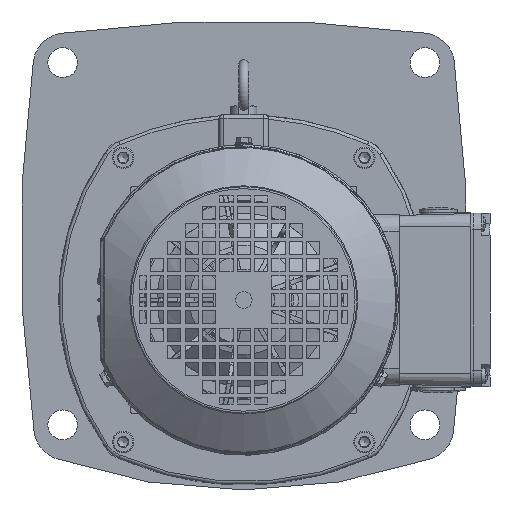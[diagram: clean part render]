
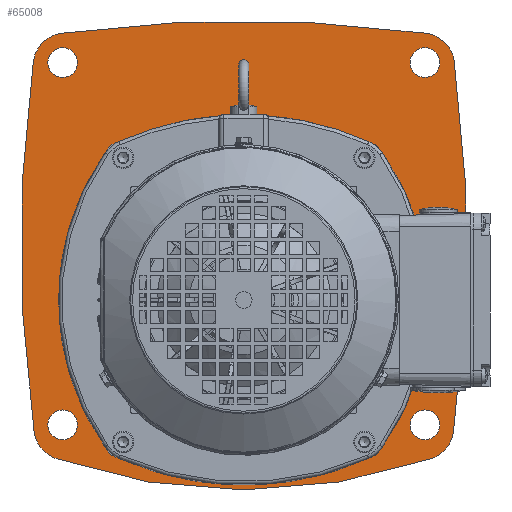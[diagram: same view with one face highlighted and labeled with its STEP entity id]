
A CAD part, left-side view. The second image highlights one B-rep face of the part: STEP entity #65008.
In plain terms, the highlighted planar face has unit normal (-1, 0, 0).
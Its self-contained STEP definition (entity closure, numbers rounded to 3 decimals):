
#2793=PLANE('',#69112);
#4265=FACE_BOUND('',#11706,.T.);
#4266=FACE_BOUND('',#11707,.T.);
#4267=FACE_BOUND('',#11708,.T.);
#4268=FACE_BOUND('',#11709,.T.);
#4269=FACE_BOUND('',#11710,.T.);
#4864=CIRCLE('',#69044,20.);
#4878=CIRCLE('',#69060,350.);
#4879=CIRCLE('',#69062,20.);
#4880=CIRCLE('',#69064,20.);
#4881=CIRCLE('',#69066,800.);
#4882=CIRCLE('',#69068,20.);
#4883=CIRCLE('',#69070,9.);
#4884=CIRCLE('',#69072,9.);
#4885=CIRCLE('',#69074,9.);
#4886=CIRCLE('',#69076,9.);
#4887=CIRCLE('',#69078,155.);
#4891=CIRCLE('',#69083,185.);
#4895=CIRCLE('',#69088,155.);
#4899=CIRCLE('',#69093,185.);
#4909=CIRCLE('',#69109,800.);
#4910=CIRCLE('',#69111,800.);
#7648=FACE_OUTER_BOUND('',#11705,.T.);
#11705=EDGE_LOOP('',(#46493,#46494,#46495,#46496,#46497,#46498,#46499,#46500));
#11706=EDGE_LOOP('',(#46501));
#11707=EDGE_LOOP('',(#46502));
#11708=EDGE_LOOP('',(#46503));
#11709=EDGE_LOOP('',(#46504));
#11710=EDGE_LOOP('',(#46505,#46506,#46507,#46508));
#27629=VERTEX_POINT('',#96990);
#27630=VERTEX_POINT('',#96991);
#27644=VERTEX_POINT('',#97023);
#27645=VERTEX_POINT('',#97027);
#27646=VERTEX_POINT('',#97031);
#27647=VERTEX_POINT('',#97032);
#27648=VERTEX_POINT('',#97037);
#27649=VERTEX_POINT('',#97041);
#27650=VERTEX_POINT('',#97045);
#27651=VERTEX_POINT('',#97049);
#27652=VERTEX_POINT('',#97053);
#27653=VERTEX_POINT('',#97057);
#27654=VERTEX_POINT('',#97061);
#27655=VERTEX_POINT('',#97062);
#27660=VERTEX_POINT('',#97074);
#27664=VERTEX_POINT('',#97084);
#34600=EDGE_CURVE('',#27629,#27630,#4864,.T.);
#34616=EDGE_CURVE('',#27644,#27630,#4878,.T.);
#34618=EDGE_CURVE('',#27644,#27645,#4879,.T.);
#34620=EDGE_CURVE('',#27646,#27647,#4880,.T.);
#34623=EDGE_CURVE('',#27648,#27647,#4881,.T.);
#34625=EDGE_CURVE('',#27648,#27649,#4882,.T.);
#34628=EDGE_CURVE('',#27650,#27650,#4883,.T.);
#34630=EDGE_CURVE('',#27651,#27651,#4884,.T.);
#34632=EDGE_CURVE('',#27652,#27652,#4885,.T.);
#34634=EDGE_CURVE('',#27653,#27653,#4886,.T.);
#34635=EDGE_CURVE('',#27654,#27655,#4887,.T.);
#34641=EDGE_CURVE('',#27655,#27660,#4891,.T.);
#34646=EDGE_CURVE('',#27660,#27664,#4895,.T.);
#34651=EDGE_CURVE('',#27664,#27654,#4899,.T.);
#34664=EDGE_CURVE('',#27629,#27649,#4909,.T.);
#34665=EDGE_CURVE('',#27646,#27645,#4910,.T.);
#46493=ORIENTED_EDGE('',*,*,#34600,.F.);
#46494=ORIENTED_EDGE('',*,*,#34664,.T.);
#46495=ORIENTED_EDGE('',*,*,#34625,.F.);
#46496=ORIENTED_EDGE('',*,*,#34623,.T.);
#46497=ORIENTED_EDGE('',*,*,#34620,.F.);
#46498=ORIENTED_EDGE('',*,*,#34665,.T.);
#46499=ORIENTED_EDGE('',*,*,#34618,.F.);
#46500=ORIENTED_EDGE('',*,*,#34616,.T.);
#46501=ORIENTED_EDGE('',*,*,#34628,.T.);
#46502=ORIENTED_EDGE('',*,*,#34630,.T.);
#46503=ORIENTED_EDGE('',*,*,#34632,.T.);
#46504=ORIENTED_EDGE('',*,*,#34634,.T.);
#46505=ORIENTED_EDGE('',*,*,#34635,.T.);
#46506=ORIENTED_EDGE('',*,*,#34641,.T.);
#46507=ORIENTED_EDGE('',*,*,#34646,.T.);
#46508=ORIENTED_EDGE('',*,*,#34651,.T.);
#65008=ADVANCED_FACE('',(#7648,#4265,#4266,#4267,#4268,#4269),#2793,.T.);
#69044=AXIS2_PLACEMENT_3D('',#96992,#77652,#77653);
#69060=AXIS2_PLACEMENT_3D('',#97024,#77686,#77687);
#69062=AXIS2_PLACEMENT_3D('',#97028,#77691,#77692);
#69064=AXIS2_PLACEMENT_3D('',#97033,#77696,#77697);
#69066=AXIS2_PLACEMENT_3D('',#97038,#77702,#77703);
#69068=AXIS2_PLACEMENT_3D('',#97042,#77707,#77708);
#69070=AXIS2_PLACEMENT_3D('',#97047,#77713,#77714);
#69072=AXIS2_PLACEMENT_3D('',#97051,#77718,#77719);
#69074=AXIS2_PLACEMENT_3D('',#97055,#77723,#77724);
#69076=AXIS2_PLACEMENT_3D('',#97059,#77728,#77729);
#69078=AXIS2_PLACEMENT_3D('',#97063,#77732,#77733);
#69083=AXIS2_PLACEMENT_3D('',#97075,#77744,#77745);
#69088=AXIS2_PLACEMENT_3D('',#97085,#77755,#77756);
#69093=AXIS2_PLACEMENT_3D('',#97094,#77766,#77767);
#69109=AXIS2_PLACEMENT_3D('',#97121,#77801,#77802);
#69111=AXIS2_PLACEMENT_3D('',#97123,#77805,#77806);
#69112=AXIS2_PLACEMENT_3D('',#97124,#77807,#77808);
#77652=DIRECTION('center_axis',(1.,0.,0.));
#77653=DIRECTION('ref_axis',(0.,-0.77,-0.638));
#77686=DIRECTION('center_axis',(-1.,0.,0.));
#77687=DIRECTION('ref_axis',(0.,-0.357,0.934));
#77691=DIRECTION('center_axis',(1.,0.,0.));
#77692=DIRECTION('ref_axis',(0.,0.77,-0.638));
#77696=DIRECTION('center_axis',(1.,0.,0.));
#77697=DIRECTION('ref_axis',(0.,0.707,0.707));
#77702=DIRECTION('center_axis',(-1.,0.,0.));
#77703=DIRECTION('ref_axis',(0.,0.156,-0.988));
#77707=DIRECTION('center_axis',(1.,0.,0.));
#77708=DIRECTION('ref_axis',(0.,-0.707,0.707));
#77713=DIRECTION('center_axis',(1.,0.,0.));
#77714=DIRECTION('ref_axis',(0.,-1.,0.));
#77718=DIRECTION('center_axis',(1.,0.,0.));
#77719=DIRECTION('ref_axis',(0.,0.,
-1.));
#77723=DIRECTION('center_axis',(1.,0.,0.));
#77724=DIRECTION('ref_axis',(0.,1.,0.));
#77728=DIRECTION('center_axis',(1.,0.,0.));
#77729=DIRECTION('ref_axis',(0.,0.,1.));
#77732=DIRECTION('center_axis',(1.,0.,0.));
#77733=DIRECTION('ref_axis',(0.,0.798,0.603));
#77744=DIRECTION('center_axis',(1.,0.,0.));
#77745=DIRECTION('ref_axis',(0.,-0.436,0.9));
#77755=DIRECTION('center_axis',(1.,0.,0.));
#77756=DIRECTION('ref_axis',(0.,-0.798,-0.603));
#77766=DIRECTION('center_axis',(1.,0.,0.));
#77767=DIRECTION('ref_axis',(0.,0.436,-0.9));
#77801=DIRECTION('center_axis',(-1.,0.,0.));
#77802=DIRECTION('ref_axis',(0.,0.988,0.157));
#77805=DIRECTION('center_axis',(-1.,0.,0.));
#77806=DIRECTION('ref_axis',(0.,-0.988,-0.156));
#77807=DIRECTION('center_axis',(-1.,0.,0.));
#77808=DIRECTION('ref_axis',(0.,0.,-1.));
#96990=CARTESIAN_POINT('',(54.284,-122.652,-76.511));
#96991=CARTESIAN_POINT('',(54.284,-109.343,-92.579));
#96992=CARTESIAN_POINT('Origin',(54.284,-102.856,-73.66));
#97023=CARTESIAN_POINT('',(54.284,117.709,-92.579));
#97024=CARTESIAN_POINT('Origin',(54.284,4.183,238.498));
#97027=CARTESIAN_POINT('',(54.284,131.017,-76.511));
#97028=CARTESIAN_POINT('Origin',(54.284,111.222,-73.66));
#97031=CARTESIAN_POINT('',(54.284,131.541,147.805));
#97032=CARTESIAN_POINT('',(54.284,114.49,164.856));
#97033=CARTESIAN_POINT('Origin',(54.284,111.732,145.047));
#97037=CARTESIAN_POINT('',(54.284,-106.125,164.856));
#97038=CARTESIAN_POINT('Origin',(54.284,4.183,-627.502));
#97041=CARTESIAN_POINT('',(54.284,-123.176,147.805));
#97042=CARTESIAN_POINT('Origin',(54.284,-103.367,145.047));
#97045=CARTESIAN_POINT('',(54.284,-96.419,-72.104));
#97047=CARTESIAN_POINT('Origin',(54.284,-105.419,-72.104));
#97049=CARTESIAN_POINT('',(54.284,113.784,-63.104));
#97051=CARTESIAN_POINT('Origin',(54.284,113.784,-72.104));
#97053=CARTESIAN_POINT('',(54.284,104.784,147.099));
#97055=CARTESIAN_POINT('Origin',(54.284,113.784,147.099));
#97057=CARTESIAN_POINT('',(54.284,-105.419,138.099));
#97059=CARTESIAN_POINT('Origin',(54.284,-105.419,147.099));
#97061=CARTESIAN_POINT('',(54.284,-76.431,97.01));
#97062=CARTESIAN_POINT('',(54.284,-76.431,-90.015));
#97063=CARTESIAN_POINT('Origin',(54.284,47.183,3.498));
#97074=CARTESIAN_POINT('',(54.284,84.797,-90.015));
#97075=CARTESIAN_POINT('Origin',(54.284,4.183,76.498));
#97084=CARTESIAN_POINT('',(54.284,84.797,97.01));
#97085=CARTESIAN_POINT('Origin',(54.284,-38.817,3.498));
#97094=CARTESIAN_POINT('Origin',(54.284,4.183,-69.502));
#97121=CARTESIAN_POINT('Origin',(54.284,669.183,37.498));
#97123=CARTESIAN_POINT('Origin',(54.284,-660.817,37.498));
#97124=CARTESIAN_POINT('Origin',(54.284,4.183,34.322));
